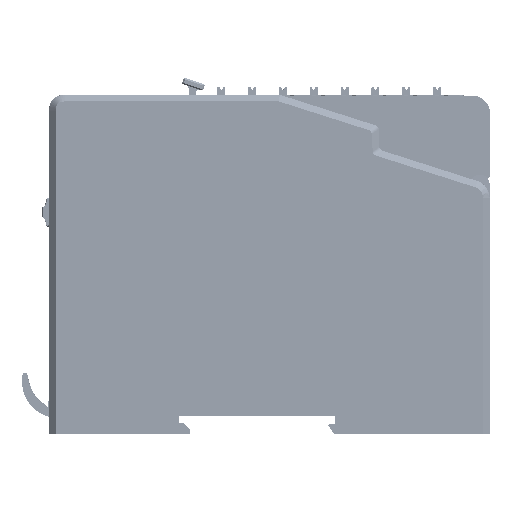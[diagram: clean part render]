
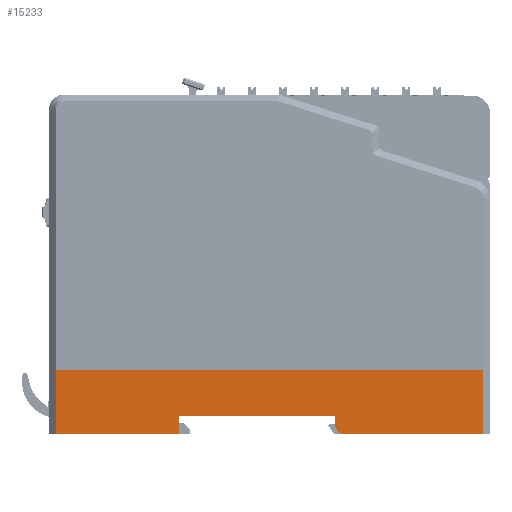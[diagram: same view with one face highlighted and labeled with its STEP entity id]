
A CAD part, left-side view. The second image highlights one B-rep face of the part: STEP entity #15233.
In plain terms, the highlighted planar face has unit normal (-1, 0, 0).
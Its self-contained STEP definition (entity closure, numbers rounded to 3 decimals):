
#7567=CIRCLE('',#186022,2.);
#15233=ADVANCED_FACE('',(#30253),#21970,.T.);
#21970=PLANE('',#186023);
#30253=FACE_OUTER_BOUND('',#39520,.T.);
#39520=EDGE_LOOP('',(#84912,#84913,#84914,#84915,#84916,#84917,#84918,#84919,
#84920));
#43077=B_SPLINE_CURVE_WITH_KNOTS('',3,(#293986,#293987,#293988,#293989),
 .UNSPECIFIED.,.F.,.F.,(4,4),(0.,1.),.UNSPECIFIED.);
#84912=ORIENTED_EDGE('',*,*,#131931,.F.);
#84913=ORIENTED_EDGE('',*,*,#131932,.F.);
#84914=ORIENTED_EDGE('',*,*,#131933,.T.);
#84915=ORIENTED_EDGE('',*,*,#131934,.T.);
#84916=ORIENTED_EDGE('',*,*,#131935,.T.);
#84917=ORIENTED_EDGE('',*,*,#131936,.F.);
#84918=ORIENTED_EDGE('',*,*,#131921,.T.);
#84919=ORIENTED_EDGE('',*,*,#131920,.F.);
#84920=ORIENTED_EDGE('',*,*,#131930,.F.);
#108128=VERTEX_POINT('',#293948);
#108129=VERTEX_POINT('',#293951);
#108130=VERTEX_POINT('',#293955);
#108131=VERTEX_POINT('',#293973);
#108132=VERTEX_POINT('',#293977);
#108133=VERTEX_POINT('',#293979);
#108134=VERTEX_POINT('',#293981);
#108135=VERTEX_POINT('',#293983);
#108136=VERTEX_POINT('',#293985);
#131920=EDGE_CURVE('',#108129,#108128,#152121,.T.);
#131921=EDGE_CURVE('',#108130,#108128,#152122,.T.);
#131930=EDGE_CURVE('',#108131,#108129,#152130,.T.);
#131931=EDGE_CURVE('',#108132,#108131,#152131,.T.);
#131932=EDGE_CURVE('',#108133,#108132,#152132,.T.);
#131933=EDGE_CURVE('',#108133,#108134,#7567,.T.);
#131934=EDGE_CURVE('',#108134,#108135,#152133,.T.);
#131935=EDGE_CURVE('',#108135,#108136,#152134,.T.);
#131936=EDGE_CURVE('',#108130,#108136,#43077,.T.);
#152121=LINE('',#293952,#171748);
#152122=LINE('',#293954,#171749);
#152130=LINE('',#293974,#171757);
#152131=LINE('',#293976,#171758);
#152132=LINE('',#293978,#171759);
#152133=LINE('',#293982,#171760);
#152134=LINE('',#293984,#171761);
#171748=VECTOR('',#225633,1.);
#171749=VECTOR('',#225636,1.);
#171757=VECTOR('',#225656,1.);
#171758=VECTOR('',#225659,1.);
#171759=VECTOR('',#225660,1.);
#171760=VECTOR('',#225663,1.);
#171761=VECTOR('',#225664,1.);
#186022=AXIS2_PLACEMENT_3D('',#293980,#225661,#225662);
#186023=AXIS2_PLACEMENT_3D('',#293990,#225665,#225666);
#225633=DIRECTION('',(0.,1.,0.));
#225636=DIRECTION('',(0.,0.,-1.));
#225656=DIRECTION('',(0.,0.,-1.));
#225659=DIRECTION('',(0.,1.,0.));
#225660=DIRECTION('',(0.,0.,1.));
#225661=DIRECTION('',(-1.,0.,0.));
#225662=DIRECTION('',(0.,0.,1.));
#225663=DIRECTION('',(0.,-1.,0.));
#225664=DIRECTION('',(0.,0.,1.));
#225665=DIRECTION('',(-1.,0.,0.));
#225666=DIRECTION('',(0.,0.,-1.));
#293948=CARTESIAN_POINT('',(137.292,-261.5,0.029));
#293951=CARTESIAN_POINT('',(137.292,-289.5,0.029));
#293952=CARTESIAN_POINT('',(137.292,-363.503,0.029));
#293954=CARTESIAN_POINT('',(137.292,-261.5,17.127));
#293955=CARTESIAN_POINT('',(137.292,-261.5,14.627));
#293973=CARTESIAN_POINT('',(137.292,-289.5,4.029));
#293974=CARTESIAN_POINT('',(137.292,-289.5,2.029));
#293976=CARTESIAN_POINT('',(137.292,-353.503,4.029));
#293977=CARTESIAN_POINT('',(137.292,-325.,4.029));
#293978=CARTESIAN_POINT('',(137.292,-325.,3.029));
#293979=CARTESIAN_POINT('',(137.292,-325.,2.029));
#293980=CARTESIAN_POINT('',(137.292,-327.,2.029));
#293981=CARTESIAN_POINT('',(137.292,-327.,0.029));
#293982=CARTESIAN_POINT('',(137.292,-353.503,0.029));
#293983=CARTESIAN_POINT('',(137.292,-358.5,0.029));
#293984=CARTESIAN_POINT('',(137.292,-358.5,17.127));
#293985=CARTESIAN_POINT('',(137.292,-358.5,14.627));
#293986=CARTESIAN_POINT('',(137.292,-261.5,14.627));
#293987=CARTESIAN_POINT('',(137.292,-293.833,14.627));
#293988=CARTESIAN_POINT('',(137.292,-326.167,14.627));
#293989=CARTESIAN_POINT('',(137.292,-358.5,14.627));
#293990=CARTESIAN_POINT('',(137.292,-353.503,17.127));
